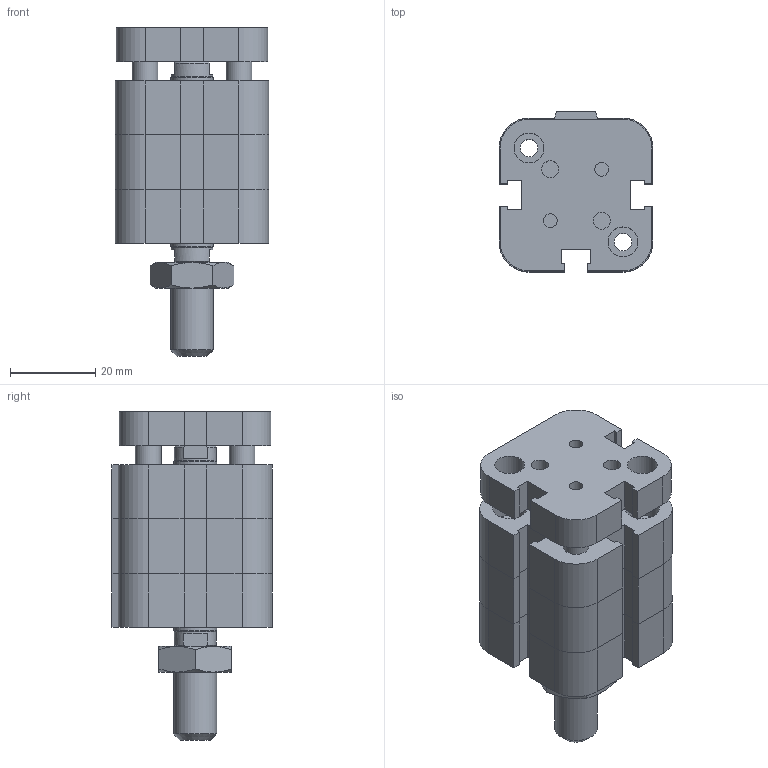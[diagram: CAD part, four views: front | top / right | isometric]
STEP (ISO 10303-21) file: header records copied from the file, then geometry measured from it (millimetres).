
FILE_DESCRIPTION((''),'2;1');
FILE_NAME('I:\Area Tecnica\Disegni\VARIE-3D\Componenti\EUROPE\15##_###_####_09_#\1581_20_0000_09_1.iam.stp','2009-04-20T15:42:53',(''),(''),'Autodesk Inventor 2009','Autodesk Inventor 2009','');
FILE_SCHEMA(('AUTOMOTIVE_DESIGN { 1 0 10303 214 1 1 1 1 }'));
Length unit declared in the file: millimetre
Products named in the file (4): 1581_20_0000_09_1; 1581_20_0000_08_1_C; 1561_20_0000_09_1_SA; DBFM10
Assembly tree (3 placements, depth 2):
  1581_20_0000_09_1
    1581_20_0000_08_1_C
    1561_20_0000_09_1_SA
    DBFM10
Bounding box: 36 x 37.5 x 77 mm (x, y, z)
Volume: 53501.2 mm3; surface area: 20467.8 mm2
Topology: 3 solids, 3 shells, 230 faces, 542 edges, 333 vertices
Faces by surface type: plane 147, bspline 39, cylinder 23, cone 21
Full cylindrical faces by diameter (mm): 6 x2, 8.8 x1, 9.8 x2, 10 x2
Entity records: 6735 total; most frequent: CARTESIAN_POINT 1550, ORIENTED_EDGE 984, DIRECTION 966, EDGE_CURVE 492, VECTOR 350, LINE 350, VERTEX_POINT 318, AXIS2_PLACEMENT_3D 308
